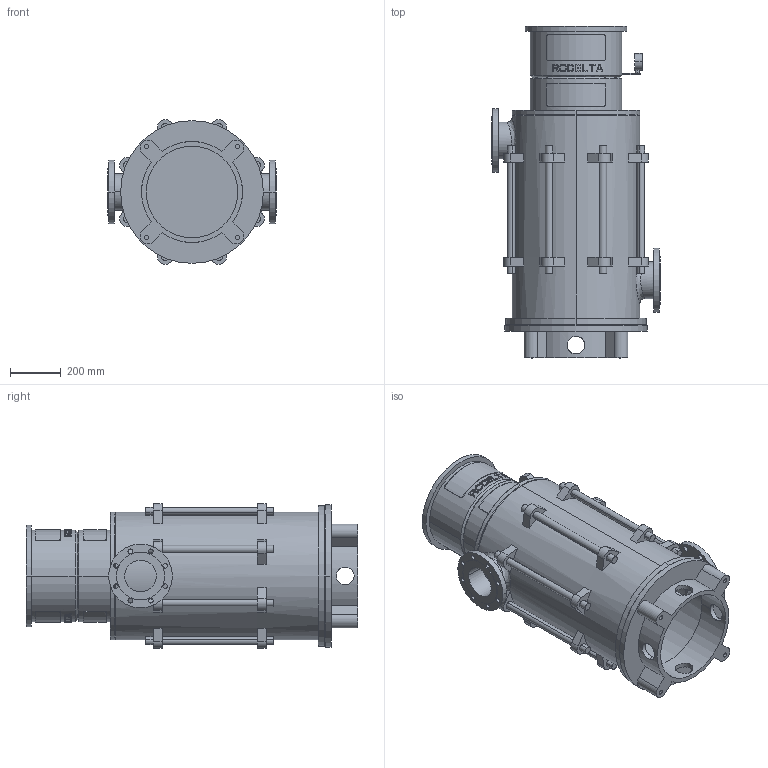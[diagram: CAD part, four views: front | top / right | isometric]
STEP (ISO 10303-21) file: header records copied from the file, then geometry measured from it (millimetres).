
FILE_DESCRIPTION((''),'2;1');
FILE_NAME('LS5_4TR_0GR_TOT_30KW','2023-08-08T',('Lyritlocal'),(''),'PRO/ENGINEER BY PARAMETRIC TECHNOLOGY CORPORATION, 2016360','PRO/ENGINEER BY PARAMETRIC TECHNOLOGY CORPORATION, 2016360','');
FILE_SCHEMA(('CONFIG_CONTROL_DESIGN'));
Length unit declared in the file: millimetre
Products named in the file (1): LS5_4TR_0GR_TOT_30KW
Bounding box: 660 x 1302 x 568.08 mm (x, y, z)
Volume: 37520399.2 mm3; surface area: 5384781.7 mm2
Topology: 3 solids, 7 shells, 672 faces, 1747 edges, 1158 vertices
Faces by surface type: plane 414, cylinder 242, cone 12, bspline 4
Entity records: 21990 total; most frequent: CARTESIAN_POINT 5546, ORIENTED_EDGE 3478, DIRECTION 3269, EDGE_CURVE 1747, AXIS2_PLACEMENT_3D 1241, VERTEX_POINT 1158, EDGE_LOOP 809, VECTOR 787
